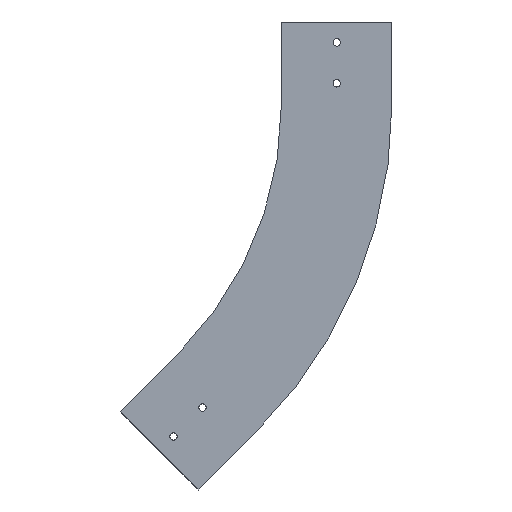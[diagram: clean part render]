
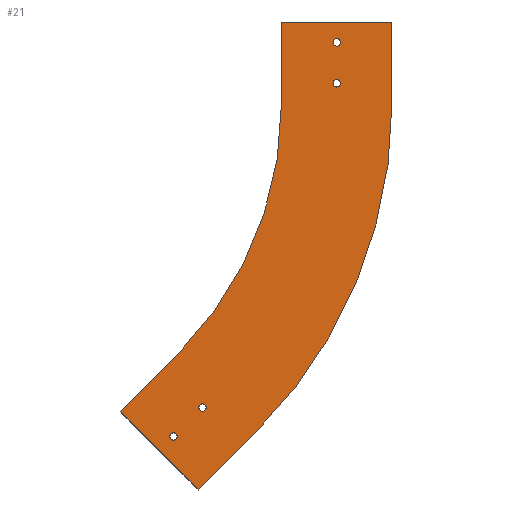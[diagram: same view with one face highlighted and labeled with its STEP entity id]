
A CAD part, left-side view. The second image highlights one B-rep face of the part: STEP entity #21.
In plain terms, the highlighted planar face has unit normal (-1, 0, 0).
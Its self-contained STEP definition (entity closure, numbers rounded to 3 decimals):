
#21 = ADVANCED_FACE ( 'NONE', ( #2072, #2081, #2064, #2250, #2251 ), #739, .T. ) ;
#95 = DIRECTION ( 'NONE',  ( 0., 0., 1. ) ) ;
#96 = DIRECTION ( 'NONE',  ( -1., 0., 0. ) ) ;
#97 = CARTESIAN_POINT ( 'NONE',  ( -43., 164.124, -471.231 ) ) ;
#107 = DIRECTION ( 'NONE',  ( 0., 0., 1. ) ) ;
#108 = DIRECTION ( 'NONE',  ( -1., 0., 0. ) ) ;
#109 = CARTESIAN_POINT ( 'NONE',  ( -43., 199.48, -506.586 ) ) ;
#120 = DIRECTION ( 'NONE',  ( 0., 0., 1. ) ) ;
#122 = DIRECTION ( 'NONE',  ( -1., 0., 0. ) ) ;
#123 = CARTESIAN_POINT ( 'NONE',  ( -43., 0., -75. ) ) ;
#197 = DIRECTION ( 'NONE',  ( 0., 0., 1. ) ) ;
#204 = DIRECTION ( 'NONE',  ( -1., 0., 0. ) ) ;
#422 = DIRECTION ( 'NONE',  ( 0., -0.707, -0.707 ) ) ;
#423 = CARTESIAN_POINT ( 'NONE',  ( -43., 169.428, -571.994 ) ) ;
#424 = DIRECTION ( 'NONE',  ( 0., 0., 1. ) ) ;
#425 = CARTESIAN_POINT ( 'NONE',  ( -43., 67.5, -100. ) ) ;
#426 = DIRECTION ( 'NONE',  ( 0., -1., 0. ) ) ;
#427 = CARTESIAN_POINT ( 'NONE',  ( -43., -67.5, 0. ) ) ;
#428 = DIRECTION ( 'NONE',  ( 0., 0., 1. ) ) ;
#430 = DIRECTION ( 'NONE',  ( -1., 0., 0. ) ) ;
#431 = CARTESIAN_POINT ( 'NONE',  ( -43., 0., -25. ) ) ;
#449 = DIRECTION ( 'NONE',  ( 0., 0., 1. ) ) ;
#450 = DIRECTION ( 'NONE',  ( -1., 0., 0. ) ) ;
#452 = CARTESIAN_POINT ( 'NONE',  ( -43., 164.124, -471.231 ) ) ;
#463 = DIRECTION ( 'NONE',  ( 0., 0., 1. ) ) ;
#464 = DIRECTION ( 'NONE',  ( -1., 0., 0. ) ) ;
#465 = CARTESIAN_POINT ( 'NONE',  ( -43., 199.48, -506.586 ) ) ;
#466 = DIRECTION ( 'NONE',  ( 0., 0., 1. ) ) ;
#467 = DIRECTION ( 'NONE',  ( -1., 0., 0. ) ) ;
#470 = CARTESIAN_POINT ( 'NONE',  ( -43., 0., -75. ) ) ;
#474 = DIRECTION ( 'NONE',  ( 0., 0., 1. ) ) ;
#475 = CARTESIAN_POINT ( 'NONE',  ( -43., -67.5, -100. ) ) ;
#501 = VERTEX_POINT ( 'NONE', #1006 ) ;
#641 = VERTEX_POINT ( 'NONE', #979 ) ;
#660 = VERTEX_POINT ( 'NONE', #972 ) ;
#662 = VERTEX_POINT ( 'NONE', #970 ) ;
#666 = VERTEX_POINT ( 'NONE', #966 ) ;
#671 = VERTEX_POINT ( 'NONE', #963 ) ;
#710 = DIRECTION ( 'NONE',  ( 0., 0., -1. ) ) ;
#711 = DIRECTION ( 'NONE',  ( 1., 0., 0. ) ) ;
#712 = CARTESIAN_POINT ( 'NONE',  ( -43., 500., -100. ) ) ;
#729 = DIRECTION ( 'NONE',  ( 0., 0., -1. ) ) ;
#730 = DIRECTION ( 'NONE',  ( 1., 0., 0. ) ) ;
#731 = CARTESIAN_POINT ( 'NONE',  ( -43., 500., -100. ) ) ;
#739 = PLANE ( 'NONE',  #2532 ) ;
#758 = CARTESIAN_POINT ( 'NONE',  ( -43., -67.5, -100. ) ) ;
#816 = VERTEX_POINT ( 'NONE', #934 ) ;
#819 = VERTEX_POINT ( 'NONE', #933 ) ;
#825 = VERTEX_POINT ( 'NONE', #931 ) ;
#838 = DIRECTION ( 'NONE',  ( 0., 0.707, -0.707 ) ) ;
#840 = CARTESIAN_POINT ( 'NONE',  ( -43., 194.176, -405.824 ) ) ;
#843 = CARTESIAN_POINT ( 'NONE',  ( -43., 199.48, -502.086 ) ) ;
#844 = VERTEX_POINT ( 'NONE', #925 ) ;
#847 = CARTESIAN_POINT ( 'NONE',  ( -43., 0., -70.5 ) ) ;
#874 = CARTESIAN_POINT ( 'NONE',  ( -43., 199.48, -511.086 ) ) ;
#883 = CARTESIAN_POINT ( 'NONE',  ( -43., 0., -20.5 ) ) ;
#886 = CARTESIAN_POINT ( 'NONE',  ( -43., 0., -29.5 ) ) ;
#913 = CARTESIAN_POINT ( 'NONE',  ( -43., -67.5, 0. ) ) ;
#917 = VERTEX_POINT ( 'NONE', #913 ) ;
#925 = CARTESIAN_POINT ( 'NONE',  ( -43., 169.428, -571.994 ) ) ;
#931 = CARTESIAN_POINT ( 'NONE',  ( -43., -67.5, -100. ) ) ;
#933 = CARTESIAN_POINT ( 'NONE',  ( -43., 264.887, -476.534 ) ) ;
#934 = CARTESIAN_POINT ( 'NONE',  ( -43., 164.124, -466.731 ) ) ;
#963 = CARTESIAN_POINT ( 'NONE',  ( -43., 0., -79.5 ) ) ;
#966 = CARTESIAN_POINT ( 'NONE',  ( -43., 164.124, -475.731 ) ) ;
#970 = CARTESIAN_POINT ( 'NONE',  ( -43., 98.717, -501.283 ) ) ;
#972 = CARTESIAN_POINT ( 'NONE',  ( -43., 67.5, -100. ) ) ;
#979 = CARTESIAN_POINT ( 'NONE',  ( -43., 67.5, 0. ) ) ;
#1006 = CARTESIAN_POINT ( 'NONE',  ( -43., 194.176, -405.824 ) ) ;
#1103 = VERTEX_POINT ( 'NONE', #886 ) ;
#1109 = VERTEX_POINT ( 'NONE', #883 ) ;
#1136 = VERTEX_POINT ( 'NONE', #874 ) ;
#1198 = VERTEX_POINT ( 'NONE', #847 ) ;
#1210 = VERTEX_POINT ( 'NONE', #843 ) ;
#1450 = ORIENTED_EDGE ( 'NONE', *, *, #2731, .F. ) ;
#1451 = ORIENTED_EDGE ( 'NONE', *, *, #2831, .F. ) ;
#1452 = ORIENTED_EDGE ( 'NONE', *, *, #2732, .F. ) ;
#1453 = ORIENTED_EDGE ( 'NONE', *, *, #2835, .F. ) ;
#1454 = ORIENTED_EDGE ( 'NONE', *, *, #2734, .F. ) ;
#1455 = ORIENTED_EDGE ( 'NONE', *, *, #2839, .F. ) ;
#1456 = ORIENTED_EDGE ( 'NONE', *, *, #2738, .F. ) ;
#1457 = ORIENTED_EDGE ( 'NONE', *, *, #2843, .F. ) ;
#1458 = ORIENTED_EDGE ( 'NONE', *, *, #2739, .F. ) ;
#1459 = ORIENTED_EDGE ( 'NONE', *, *, #2740, .F. ) ;
#1460 = ORIENTED_EDGE ( 'NONE', *, *, #2660, .T. ) ;
#1461 = ORIENTED_EDGE ( 'NONE', *, *, #2610, .T. ) ;
#1462 = ORIENTED_EDGE ( 'NONE', *, *, #2741, .T. ) ;
#1463 = ORIENTED_EDGE ( 'NONE', *, *, #2854, .F. ) ;
#1464 = ORIENTED_EDGE ( 'NONE', *, *, #2655, .F. ) ;
#1465 = ORIENTED_EDGE ( 'NONE', *, *, #2729, .T. ) ;
#1705 = EDGE_LOOP ( 'NONE', ( #1456, #1457 ) ) ;
#1706 = EDGE_LOOP ( 'NONE', ( #1454, #1455 ) ) ;
#1711 = EDGE_LOOP ( 'NONE', ( #1458, #1459, #1460, #1461, #1462, #1463, #1464, #1465 ) ) ;
#1714 = EDGE_LOOP ( 'NONE', ( #1452, #1453 ) ) ;
#1730 = EDGE_LOOP ( 'NONE', ( #1450, #1451 ) ) ;
#1848 = VECTOR ( 'NONE', #2424, 1000. ) ;
#1849 = LINE ( 'NONE', #2425, #1848 ) ;
#1869 = CIRCLE ( 'NONE', #2472, 4.5 ) ;
#1875 = CIRCLE ( 'NONE', #2474, 4.5 ) ;
#1883 = CIRCLE ( 'NONE', #2476, 4.5 ) ;
#1893 = CIRCLE ( 'NONE', #2478, 4.5 ) ;
#2064 = FACE_BOUND ( 'NONE', #1706, .T. ) ;
#2072 = FACE_BOUND ( 'NONE', #1730, .T. ) ;
#2074 = VECTOR ( 'NONE', #422, 1000. ) ;
#2076 = LINE ( 'NONE', #423, #2074 ) ;
#2077 = VECTOR ( 'NONE', #424, 1000. ) ;
#2078 = LINE ( 'NONE', #425, #2077 ) ;
#2079 = VECTOR ( 'NONE', #426, 1000. ) ;
#2080 = CIRCLE ( 'NONE', #2503, 4.5 ) ;
#2081 = FACE_BOUND ( 'NONE', #1714, .T. ) ;
#2082 = LINE ( 'NONE', #427, #2079 ) ;
#2087 = CIRCLE ( 'NONE', #2506, 4.5 ) ;
#2089 = CIRCLE ( 'NONE', #2508, 4.5 ) ;
#2090 = CIRCLE ( 'NONE', #2509, 4.5 ) ;
#2093 = VECTOR ( 'NONE', #474, 1000. ) ;
#2095 = LINE ( 'NONE', #475, #2093 ) ;
#2231 = CIRCLE ( 'NONE', #2534, 432.5 ) ;
#2239 = CIRCLE ( 'NONE', #2537, 567.5 ) ;
#2250 = FACE_BOUND ( 'NONE', #1705, .T. ) ;
#2251 = FACE_OUTER_BOUND ( 'NONE', #1711, .T. ) ;
#2312 = VECTOR ( 'NONE', #838, 1000. ) ;
#2313 = LINE ( 'NONE', #840, #2312 ) ;
#2424 = DIRECTION ( 'NONE',  ( 0., 0.707, -0.707 ) ) ;
#2425 = CARTESIAN_POINT ( 'NONE',  ( -43., 98.717, -501.283 ) ) ;
#2446 = DIRECTION ( 'NONE',  ( 0., 0., 1. ) ) ;
#2451 = CARTESIAN_POINT ( 'NONE',  ( -43., 0., -25. ) ) ;
#2452 = DIRECTION ( 'NONE',  ( -1., 0., 0. ) ) ;
#2472 = AXIS2_PLACEMENT_3D ( 'NONE', #2451, #2452, #2446 ) ;
#2474 = AXIS2_PLACEMENT_3D ( 'NONE', #97, #96, #95 ) ;
#2476 = AXIS2_PLACEMENT_3D ( 'NONE', #109, #108, #107 ) ;
#2478 = AXIS2_PLACEMENT_3D ( 'NONE', #123, #122, #120 ) ;
#2503 = AXIS2_PLACEMENT_3D ( 'NONE', #431, #430, #428 ) ;
#2506 = AXIS2_PLACEMENT_3D ( 'NONE', #452, #450, #449 ) ;
#2508 = AXIS2_PLACEMENT_3D ( 'NONE', #465, #464, #463 ) ;
#2509 = AXIS2_PLACEMENT_3D ( 'NONE', #470, #467, #466 ) ;
#2532 = AXIS2_PLACEMENT_3D ( 'NONE', #758, #204, #197 ) ;
#2534 = AXIS2_PLACEMENT_3D ( 'NONE', #712, #711, #710 ) ;
#2537 = AXIS2_PLACEMENT_3D ( 'NONE', #731, #730, #729 ) ;
#2610 = EDGE_CURVE ( 'NONE', #501, #819, #2313, .T. ) ;
#2655 = EDGE_CURVE ( 'NONE', #825, #662, #2239, .T. ) ;
#2660 = EDGE_CURVE ( 'NONE', #660, #501, #2231, .T. ) ;
#2729 = EDGE_CURVE ( 'NONE', #825, #917, #2095, .T. ) ;
#2731 = EDGE_CURVE ( 'NONE', #1198, #671, #2090, .T. ) ;
#2732 = EDGE_CURVE ( 'NONE', #1210, #1136, #2089, .T. ) ;
#2734 = EDGE_CURVE ( 'NONE', #816, #666, #2087, .T. ) ;
#2738 = EDGE_CURVE ( 'NONE', #1109, #1103, #2080, .T. ) ;
#2739 = EDGE_CURVE ( 'NONE', #641, #917, #2082, .T. ) ;
#2740 = EDGE_CURVE ( 'NONE', #660, #641, #2078, .T. ) ;
#2741 = EDGE_CURVE ( 'NONE', #819, #844, #2076, .T. ) ;
#2831 = EDGE_CURVE ( 'NONE', #671, #1198, #1893, .T. ) ;
#2835 = EDGE_CURVE ( 'NONE', #1136, #1210, #1883, .T. ) ;
#2839 = EDGE_CURVE ( 'NONE', #666, #816, #1875, .T. ) ;
#2843 = EDGE_CURVE ( 'NONE', #1103, #1109, #1869, .T. ) ;
#2854 = EDGE_CURVE ( 'NONE', #662, #844, #1849, .T. ) ;
